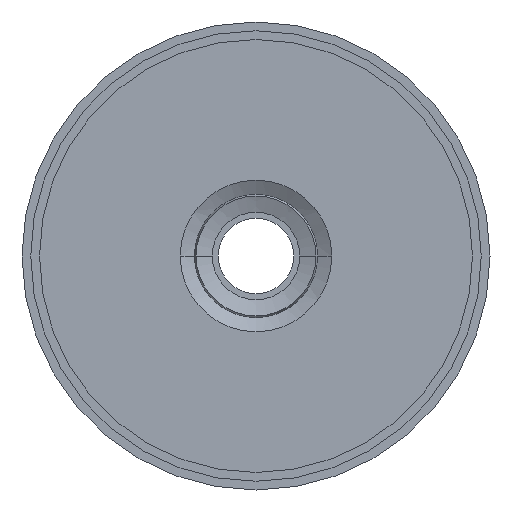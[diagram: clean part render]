
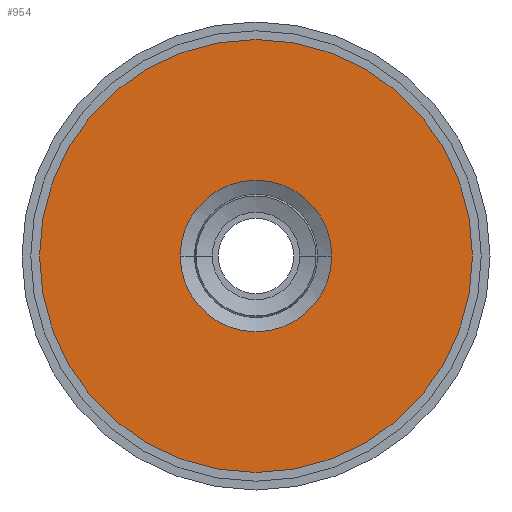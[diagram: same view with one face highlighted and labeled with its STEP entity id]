
A CAD part, front view. The second image highlights one B-rep face of the part: STEP entity #954.
In plain terms, the highlighted planar face has unit normal (0, -1, 0).
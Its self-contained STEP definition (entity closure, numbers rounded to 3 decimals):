
#12 = EDGE_LOOP ( 'NONE', ( #725, #300 ) ) ;
#21 = ORIENTED_EDGE ( 'NONE', *, *, #1611, .F. ) ;
#156 = VERTEX_POINT ( 'NONE', #1172 ) ;
#178 = VERTEX_POINT ( 'NONE', #462 ) ;
#196 = EDGE_CURVE ( 'NONE', #178, #156, #583, .T. ) ;
#300 = ORIENTED_EDGE ( 'NONE', *, *, #430, .T. ) ;
#308 = VERTEX_POINT ( 'NONE', #1340 ) ;
#329 = VERTEX_POINT ( 'NONE', #1441 ) ;
#430 = EDGE_CURVE ( 'NONE', #329, #308, #762, .T. ) ;
#432 = EDGE_CURVE ( 'NONE', #308, #329, #772, .T. ) ;
#462 = CARTESIAN_POINT ( 'NONE',  ( 0., 0., 17.321 ) ) ;
#583 = CIRCLE ( 'NONE', #584, 17.321 ) ;
#584 = AXIS2_PLACEMENT_3D ( 'NONE', #585, #586, #587 ) ;
#585 = CARTESIAN_POINT ( 'NONE',  ( 0., 0., 0. ) ) ;
#586 = DIRECTION ( 'NONE',  ( 0., -1., 0. ) ) ;
#587 = DIRECTION ( 'NONE',  ( 0., 0., 1. ) ) ;
#725 = ORIENTED_EDGE ( 'NONE', *, *, #432, .T. ) ;
#748 = EDGE_LOOP ( 'NONE', ( #749, #21 ) ) ;
#749 = ORIENTED_EDGE ( 'NONE', *, *, #196, .F. ) ;
#762 = CIRCLE ( 'NONE', #763, 49.5 ) ;
#763 = AXIS2_PLACEMENT_3D ( 'NONE', #764, #765, #766 ) ;
#764 = CARTESIAN_POINT ( 'NONE',  ( 0., 0., 0. ) ) ;
#765 = DIRECTION ( 'NONE',  ( 0., -1., 0. ) ) ;
#766 = DIRECTION ( 'NONE',  ( 0., 0., 1. ) ) ;
#772 = CIRCLE ( 'NONE', #775, 49.5 ) ;
#775 = AXIS2_PLACEMENT_3D ( 'NONE', #776, #777, #778 ) ;
#776 = CARTESIAN_POINT ( 'NONE',  ( 0., 0., 0. ) ) ;
#777 = DIRECTION ( 'NONE',  ( 0., -1., 0. ) ) ;
#778 = DIRECTION ( 'NONE',  ( 0., 0., 1. ) ) ;
#954 = ADVANCED_FACE ( 'NONE', ( #1236, #1237 ), #1238, .F. ) ;
#957 = CIRCLE ( 'NONE', #958, 17.321 ) ;
#958 = AXIS2_PLACEMENT_3D ( 'NONE', #959, #960, #961 ) ;
#959 = CARTESIAN_POINT ( 'NONE',  ( 0., 0., 0. ) ) ;
#960 = DIRECTION ( 'NONE',  ( 0., -1., 0. ) ) ;
#961 = DIRECTION ( 'NONE',  ( 0., 0., 1. ) ) ;
#1172 = CARTESIAN_POINT ( 'NONE',  ( 0., 0., -17.321 ) ) ;
#1236 = FACE_BOUND ( 'NONE', #748, .T. ) ;
#1237 = FACE_OUTER_BOUND ( 'NONE', #12, .T. ) ;
#1238 = PLANE ( 'NONE',  #1239 ) ;
#1239 = AXIS2_PLACEMENT_3D ( 'NONE', #1240, #1241, #1242 ) ;
#1240 = CARTESIAN_POINT ( 'NONE',  ( -51.48, 0., 51.483 ) ) ;
#1241 = DIRECTION ( 'NONE',  ( 0., 1., 0. ) ) ;
#1242 = DIRECTION ( 'NONE',  ( 1., 0., 0. ) ) ;
#1340 = CARTESIAN_POINT ( 'NONE',  ( 0., 0., 49.5 ) ) ;
#1441 = CARTESIAN_POINT ( 'NONE',  ( 0., 0., -49.5 ) ) ;
#1611 = EDGE_CURVE ( 'NONE', #156, #178, #957, .T. ) ;
